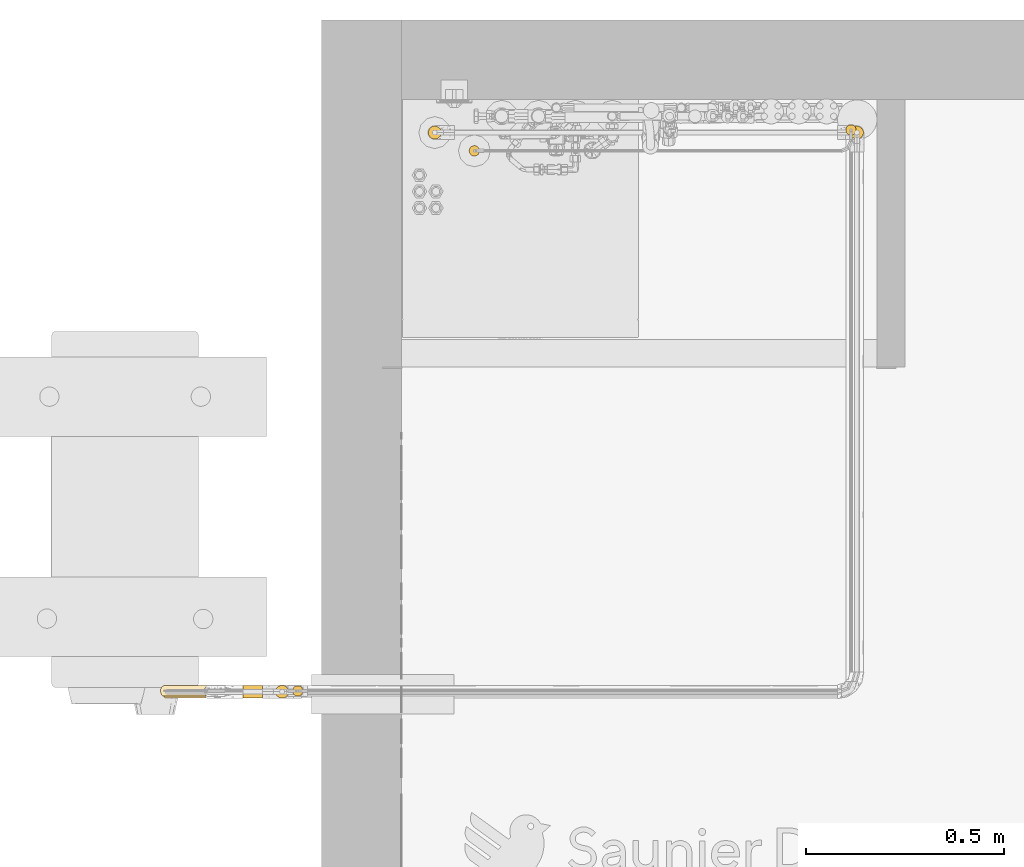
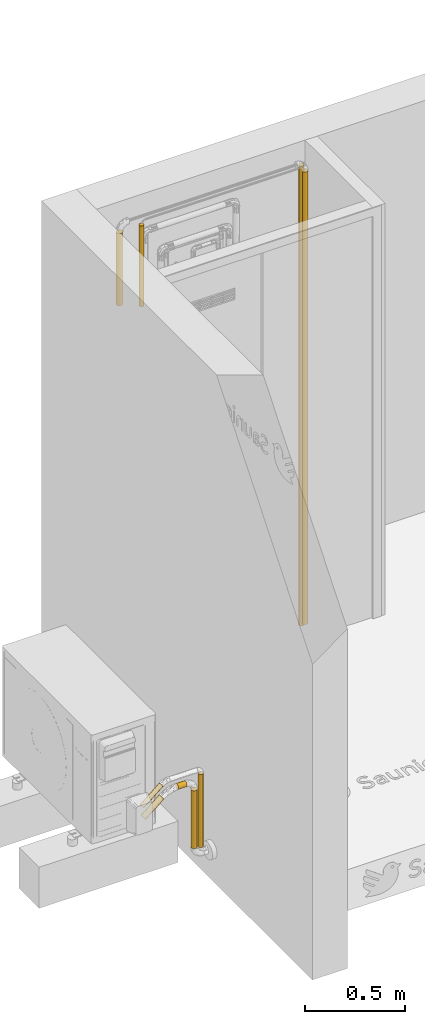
# One storey, part 3 of 32: 9 coverings.
"""IFC2X3 building model written with IfcOpenShell, lengths in metres."""

from ifc_helpers import new_model, entity, si_unit, converted_unit, derived_unit, direction, frame, frame_2d, origin, origin_2d_with_axis, place, context, subcontext, project, spatial, circle, extrude, material, type_object, element, save


model = new_model("IFC2X3")

# Units and contexts
model_context = context("Model", 3, precision=1e-05, world=origin(), true_north=direction((6.123031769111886e-17, 1.0)))
body_context = subcontext(model_context, "Body", "Model", "MODEL_VIEW")
ifc_project = project(units=[si_unit("LENGTHUNIT", "METRE"), si_unit("AREAUNIT", "SQUARE_METRE"), si_unit("VOLUMEUNIT", "CUBIC_METRE"), converted_unit("PLANEANGLEUNIT", "DEGREE", entity("IfcPlaneAngleMeasure", 0.017453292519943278), si_unit("PLANEANGLEUNIT", "RADIAN"), dimensions=[0, 0, 0, 0, 0, 0, 0]), si_unit("MASSUNIT", "GRAM", prefix="KILO"), derived_unit("MASSDENSITYUNIT", [(si_unit("MASSUNIT", "GRAM", prefix="KILO"), 1), (si_unit("LENGTHUNIT", "METRE"), -3)]), derived_unit("IONCONCENTRATIONUNIT", [(si_unit("MASSUNIT", "GRAM", prefix="KILO"), 1), (si_unit("LENGTHUNIT", "METRE"), -3)]), derived_unit("MOMENTOFINERTIAUNIT", [(si_unit("LENGTHUNIT", "METRE"), 4)]), si_unit("TIMEUNIT", "SECOND"), si_unit("FREQUENCYUNIT", "HERTZ"), si_unit("THERMODYNAMICTEMPERATUREUNIT", "DEGREE_CELSIUS"), derived_unit("THERMALTRANSMITTANCEUNIT", [(si_unit("MASSUNIT", "GRAM", prefix="KILO"), 1), (si_unit("THERMODYNAMICTEMPERATUREUNIT", "KELVIN"), -1), (si_unit("TIMEUNIT", "SECOND"), -3)]), derived_unit("THERMALCONDUCTANCEUNIT", [(si_unit("MASSUNIT", "GRAM", prefix="KILO"), 1), (si_unit("THERMODYNAMICTEMPERATUREUNIT", "KELVIN"), -1), (si_unit("TIMEUNIT", "SECOND"), -3), (si_unit("LENGTHUNIT", "METRE"), 1)]), derived_unit("VOLUMETRICFLOWRATEUNIT", [(si_unit("LENGTHUNIT", "METRE", prefix="DECI"), 3), (si_unit("TIMEUNIT", "SECOND"), -1)]), derived_unit("MASSFLOWRATEUNIT", [(si_unit("MASSUNIT", "GRAM", prefix="KILO"), 1), (si_unit("TIMEUNIT", "SECOND"), -1)]), derived_unit("ROTATIONALFREQUENCYUNIT", [(si_unit("TIMEUNIT", "SECOND"), -1)]), si_unit("ELECTRICCURRENTUNIT", "AMPERE"), si_unit("ELECTRICVOLTAGEUNIT", "VOLT"), si_unit("POWERUNIT", "WATT"), si_unit("FORCEUNIT", "NEWTON", prefix="KILO"), si_unit("ILLUMINANCEUNIT", "LUX"), si_unit("LUMINOUSFLUXUNIT", "LUMEN"), si_unit("LUMINOUSINTENSITYUNIT", "CANDELA"), si_unit("ENERGYUNIT", "JOULE"), derived_unit("USERDEFINED", [(si_unit("MASSUNIT", "GRAM", prefix="KILO"), -1), (si_unit("LENGTHUNIT", "METRE"), -2), (si_unit("TIMEUNIT", "SECOND"), 3), (si_unit("LUMINOUSFLUXUNIT", "LUMEN"), 1)]), derived_unit("USERDEFINED", [(si_unit("MASSUNIT", "GRAM", prefix="KILO"), 1), (si_unit("TIMEUNIT", "SECOND"), -3), (si_unit("LENGTHUNIT", "METRE"), 3), (si_unit("ELECTRICCURRENTUNIT", "AMPERE"), -2)]), derived_unit("SOUNDPOWERUNIT", [(si_unit("MASSUNIT", "GRAM", prefix="KILO"), 1), (si_unit("TIMEUNIT", "SECOND"), -3), (si_unit("LENGTHUNIT", "METRE"), 2)]), derived_unit("SOUNDPRESSUREUNIT", [(si_unit("MASSUNIT", "GRAM", prefix="KILO"), 1), (si_unit("LENGTHUNIT", "METRE"), -1), (si_unit("TIMEUNIT", "SECOND"), -2)]), derived_unit("LINEARVELOCITYUNIT", [(si_unit("LENGTHUNIT", "METRE"), 1), (si_unit("TIMEUNIT", "SECOND"), -1)]), si_unit("PRESSUREUNIT", "PASCAL"), derived_unit("USERDEFINED", [(si_unit("MASSUNIT", "GRAM", prefix="KILO"), 1), (si_unit("LENGTHUNIT", "METRE"), -2), (si_unit("TIMEUNIT", "SECOND"), -2)]), derived_unit("LINEARFORCEUNIT", [(si_unit("MASSUNIT", "GRAM", prefix="KILO"), 1), (si_unit("TIMEUNIT", "SECOND"), -2)]), derived_unit("PLANARFORCEUNIT", [(si_unit("MASSUNIT", "GRAM", prefix="KILO"), 1), (si_unit("LENGTHUNIT", "METRE"), -1), (si_unit("TIMEUNIT", "SECOND"), -2)]), derived_unit("SPECIFICHEATCAPACITYUNIT", [(si_unit("THERMODYNAMICTEMPERATUREUNIT", "KELVIN"), -1), (si_unit("LENGTHUNIT", "METRE"), 2), (si_unit("TIMEUNIT", "SECOND"), -2)]), derived_unit("HEATFLUXDENSITYUNIT", [(si_unit("MASSUNIT", "GRAM", prefix="KILO"), 1), (si_unit("TIMEUNIT", "SECOND"), -3)]), derived_unit("HEATINGVALUEUNIT", [(si_unit("LENGTHUNIT", "METRE"), 2), (si_unit("TIMEUNIT", "SECOND"), -2)]), derived_unit("VAPORPERMEABILITYUNIT", [(si_unit("LENGTHUNIT", "METRE"), -1), (si_unit("TIMEUNIT", "SECOND"), 1)]), derived_unit("DYNAMICVISCOSITYUNIT", [(si_unit("MASSUNIT", "GRAM", prefix="KILO"), 1), (si_unit("TIMEUNIT", "SECOND"), -1), (si_unit("LENGTHUNIT", "METRE"), -1)]), derived_unit("THERMALEXPANSIONCOEFFICIENTUNIT", [(si_unit("THERMODYNAMICTEMPERATUREUNIT", "KELVIN"), -1)]), derived_unit("MODULUSOFELASTICITYUNIT", [(si_unit("MASSUNIT", "GRAM", prefix="KILO"), 1), (si_unit("LENGTHUNIT", "METRE"), -1), (si_unit("TIMEUNIT", "SECOND"), -2)]), derived_unit("ISOTHERMALMOISTURECAPACITYUNIT", [(si_unit("MASSUNIT", "GRAM", prefix="KILO"), -1), (si_unit("LENGTHUNIT", "METRE"), 3)]), derived_unit("MOISTUREDIFFUSIVITYUNIT", [(si_unit("TIMEUNIT", "SECOND"), -1), (si_unit("LENGTHUNIT", "METRE"), 2)]), derived_unit("MASSPERLENGTHUNIT", [(si_unit("MASSUNIT", "GRAM", prefix="KILO"), 1), (si_unit("LENGTHUNIT", "METRE"), -1)]), derived_unit("THERMALRESISTANCEUNIT", [(si_unit("MASSUNIT", "GRAM", prefix="KILO"), -1), (si_unit("TIMEUNIT", "SECOND"), 3), (si_unit("THERMODYNAMICTEMPERATUREUNIT", "KELVIN"), 1)]), derived_unit("ACCELERATIONUNIT", [(si_unit("LENGTHUNIT", "METRE"), 1), (si_unit("TIMEUNIT", "SECOND"), -2)]), derived_unit("ANGULARVELOCITYUNIT", [(si_unit("TIMEUNIT", "SECOND"), -1), (si_unit("PLANEANGLEUNIT", "RADIAN"), 1)]), derived_unit("LINEARSTIFFNESSUNIT", [(si_unit("MASSUNIT", "GRAM", prefix="KILO"), 1), (si_unit("TIMEUNIT", "SECOND"), -2)]), derived_unit("WARPINGCONSTANTUNIT", [(si_unit("LENGTHUNIT", "METRE"), 6)]), derived_unit("LINEARMOMENTUNIT", [(si_unit("MASSUNIT", "GRAM", prefix="KILO"), 1), (si_unit("LENGTHUNIT", "METRE"), 1), (si_unit("TIMEUNIT", "SECOND"), -2)]), derived_unit("TORQUEUNIT", [(si_unit("MASSUNIT", "GRAM", prefix="KILO"), 1), (si_unit("LENGTHUNIT", "METRE"), 2), (si_unit("TIMEUNIT", "SECOND"), -2)])], contexts=[model_context])

# Site, building, storey
site_placement = place(None, origin())
site = spatial("IfcSite", under=ifc_project, at=site_placement, Name="Default", CompositionType="ELEMENT")
building_placement = place(site_placement, origin())
building = spatial("IfcBuilding", under=site, at=building_placement, CompositionType="ELEMENT")
storey_placement = place(building_placement, origin())
storey = spatial("IfcBuildingStorey", under=building, at=storey_placement, Name="Niveau 0", CompositionType="ELEMENT", Elevation=-1.949160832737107e-14)

# Coverings
ifc_material = material(Name="Matériau du rendu 255-255-255")
covering_type = type_object("IfcCoveringType", Name="Isolation des canalisations:Par défaut", PredefinedType="INSULATION")
covering_1_placement = place(storey_placement, origin())
element("IfcCovering", 1, at=covering_1_placement, inside=storey, type_object=covering_type, material=ifc_material, Name="Isolation des canalisations:Par défaut", ObjectType="Isolation des canalisations:Par défaut", PredefinedType="INSULATION", context=body_context, shape_type="SweptSolid", body=[
    extrude(circle(Radius=0.0132, at=frame_2d((0.0, 9.720988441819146e-18), x_axis=(1.0, 0.0))), frame((-15.308490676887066, 1.3770530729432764, -0.015673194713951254), z_axis=(0.7660444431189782, 0.0, 0.642787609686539), x_axis=(0.0, 1.0, 0.0)), (0.0, 0.0, 1.0), 0.14549999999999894),
])
covering_2_placement = place(storey_placement, origin())
element("IfcCovering", 2, at=covering_2_placement, inside=storey, type_object=covering_type, material=ifc_material, Name="Isolation des canalisations:Par défaut", ObjectType="Isolation des canalisations:Par défaut", PredefinedType="INSULATION", context=body_context, shape_type="SweptSolid", body=[
    extrude(circle(Radius=0.01635, at=frame_2d((0.0, -1.2689848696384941e-17), x_axis=(1.0, 0.0))), frame((-15.109323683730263, 1.3750530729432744, 0.03567251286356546), z_axis=(0.9999999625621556, 0.0, 0.0002736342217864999), x_axis=(0.0, -1.0, 0.0)), (0.0, 0.0, 1.0), 0.049675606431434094),
])
covering_3_placement = place(storey_placement, origin())
element("IfcCovering", 3, at=covering_3_placement, inside=storey, type_object=covering_type, material=ifc_material, Name="Isolation des canalisations:Par défaut", ObjectType="Isolation des canalisations:Par défaut", PredefinedType="INSULATION", context=body_context, shape_type="SweptSolid", body=[
    extrude(circle(Radius=0.01635, at=frame_2d((0.0, -2.5922635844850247e-17), x_axis=(1.0, 0.0))), frame((-15.30204541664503, 1.375053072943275, -0.08467319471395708), z_axis=(0.7660444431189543, 0.0, 0.6427876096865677), x_axis=(0.0, -1.0, 0.0)), (0.0, 0.0, 1.0), 0.13792377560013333),
])
covering_4_placement = place(storey_placement, origin())
element("IfcCovering", 4, at=covering_4_placement, inside=storey, type_object=covering_type, material=ifc_material, Name="Isolation des canalisations:Par défaut", ObjectType="Isolation des canalisations:Par défaut", PredefinedType="INSULATION", context=body_context, shape_type="SweptSolid", body=[
    extrude(circle(Radius=0.0132, at=origin_2d_with_axis()), frame((-14.525301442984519, 2.739526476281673, 1.9300000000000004), z_axis=(0.0, 0.0, 1.0), x_axis=(-1.0, 0.0, 0.0)), (0.0, 0.0, 1.0), 0.49090000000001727),
])
covering_5_placement = place(storey_placement, origin())
element("IfcCovering", 5, at=covering_5_placement, inside=storey, type_object=covering_type, material=ifc_material, Name="Isolation des canalisations:Par défaut", ObjectType="Isolation des canalisations:Par défaut", PredefinedType="INSULATION", context=body_context, shape_type="SweptSolid", body=[
    extrude(circle(Radius=0.01635, at=origin_2d_with_axis()), frame((-14.625301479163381, 2.7855264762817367, 1.9449999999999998), z_axis=(0.0, 0.0, 1.0), x_axis=(-1.0, 0.0, 0.0)), (0.0, 0.0, 1.0), 0.4401379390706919),
])
covering_6_placement = place(storey_placement, origin())
element("IfcCovering", 6, at=covering_6_placement, inside=storey, type_object=covering_type, material=ifc_material, Name="Isolation des canalisations:Par défaut", ObjectType="Isolation des canalisations:Par défaut", PredefinedType="INSULATION", context=body_context, shape_type="SweptSolid", body=[
    extrude(circle(Radius=0.01635, at=frame_2d((0.0, -4.331468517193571e-15), x_axis=(1.0, 0.0))), frame((-13.560301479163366, 2.785526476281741, -0.3656999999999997)), (0.0, 0.0, 1.0), 2.750837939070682),
])
covering_7_placement = place(storey_placement, origin())
element("IfcCovering", 7, at=covering_7_placement, inside=storey, type_object=covering_type, material=ifc_material, Name="Isolation des canalisations:Par défaut", ObjectType="Isolation des canalisations:Par défaut", PredefinedType="INSULATION", context=body_context, shape_type="SweptSolid", body=[
    extrude(circle(Radius=0.0132, at=frame_2d((4.872902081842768e-15, 2.1657342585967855e-15), x_axis=(1.0, 0.0))), frame((-13.575301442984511, 2.792026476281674, -0.3758999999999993), z_axis=(0.0, 0.0, 1.0), x_axis=(0.0, 1.0, 0.0)), (0.0, 0.0, 1.0), 2.7967999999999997),
])
covering_8_placement = place(storey_placement, origin())
element("IfcCovering", 8, at=covering_8_placement, inside=storey, type_object=covering_type, material=ifc_material, Name="Isolation des canalisations:Par défaut", ObjectType="Isolation des canalisations:Par défaut", PredefinedType="INSULATION", context=body_context, shape_type="SweptSolid", body=[
    extrude(circle(Radius=0.0132, at=frame_2d((6.497202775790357e-15, -1.895017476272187e-15), x_axis=(1.0, 0.0))), frame((-14.970920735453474, 1.377053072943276, -0.3758999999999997)), (0.0, 0.0, 1.0), 0.4451435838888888),
])
covering_9_placement = place(storey_placement, origin())
element("IfcCovering", 9, at=covering_9_placement, inside=storey, type_object=covering_type, material=ifc_material, Name="Isolation des canalisations:Par défaut", ObjectType="Isolation des canalisations:Par défaut", PredefinedType="INSULATION", context=body_context, shape_type="SweptSolid", body=[
    extrude(circle(Radius=0.01635, at=origin_2d_with_axis()), frame((-15.010348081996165, 1.3750530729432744, -0.36570000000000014), z_axis=(0.0, 0.0, 1.0), x_axis=(-1.616232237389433e-06, 1.0, 0.0)), (0.0, 0.0, 1.0), 0.3521028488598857),
])

save(model, "model.ifc")
